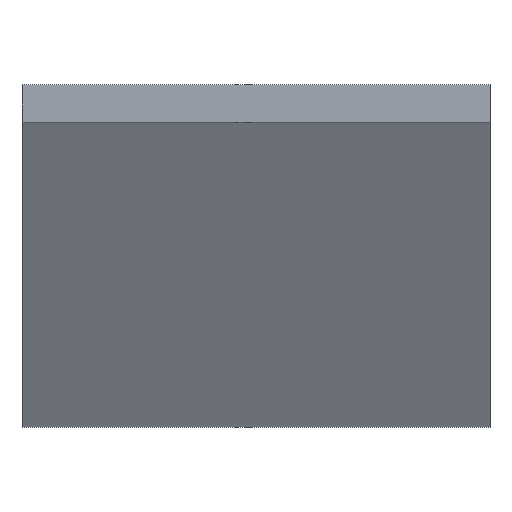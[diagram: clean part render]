
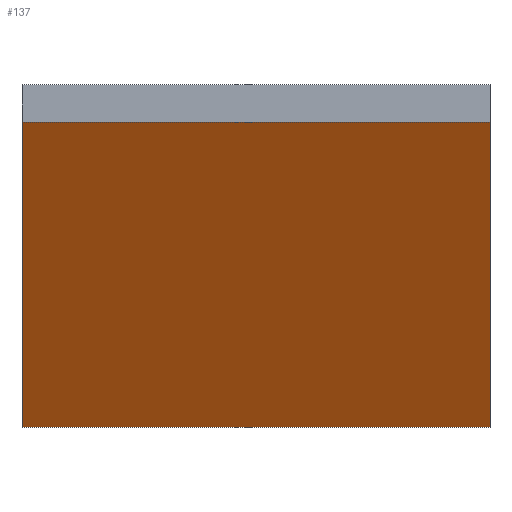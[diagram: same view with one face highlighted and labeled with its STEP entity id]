
A CAD part, front view. The second image highlights one B-rep face of the part: STEP entity #137.
In plain terms, the highlighted planar face has unit normal (0, -0.87, -0.493).
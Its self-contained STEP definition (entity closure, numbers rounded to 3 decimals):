
#32 = PLANE('',#33);
#33 = AXIS2_PLACEMENT_3D('',#34,#35,#36);
#34 = CARTESIAN_POINT('',(28.,-61.805,-165.04));
#35 = DIRECTION('',(0.,0.,1.));
#36 = DIRECTION('',(0.,-1.,0.));
#57 = VERTEX_POINT('',#58);
#58 = CARTESIAN_POINT('',(-28.,-65.305,-165.04));
#72 = PLANE('',#73);
#73 = AXIS2_PLACEMENT_3D('',#74,#75,#76);
#74 = CARTESIAN_POINT('',(-28.,-74.749,-144.627));
#75 = DIRECTION('',(-1.,0.,0.));
#76 = DIRECTION('',(0.,0.,1.));
#84 = EDGE_CURVE('',#85,#57,#87,.T.);
#85 = VERTEX_POINT('',#86);
#86 = CARTESIAN_POINT('',(28.,-65.305,-165.04));
#87 = SURFACE_CURVE('',#88,(#92,#99),.PCURVE_S1.);
#88 = LINE('',#89,#90);
#89 = CARTESIAN_POINT('',(28.,-65.305,-165.04));
#90 = VECTOR('',#91,1.);
#91 = DIRECTION('',(-1.,0.,0.));
#92 = PCURVE('',#32,#93);
#93 = DEFINITIONAL_REPRESENTATION('',(#94),#98);
#94 = LINE('',#95,#96);
#95 = CARTESIAN_POINT('',(3.5,0.));
#96 = VECTOR('',#97,1.);
#97 = DIRECTION('',(0.,-1.));
#98 = ( GEOMETRIC_REPRESENTATION_CONTEXT(2) 
PARAMETRIC_REPRESENTATION_CONTEXT() REPRESENTATION_CONTEXT('2D SPACE',''
  ) );
#99 = PCURVE('',#100,#105);
#100 = PLANE('',#101);
#101 = AXIS2_PLACEMENT_3D('',#102,#103,#104);
#102 = CARTESIAN_POINT('',(28.,-65.305,-165.04));
#103 = DIRECTION('',(0.,0.87,0.493));
#104 = DIRECTION('',(0.,-0.493,0.87)
  );
#105 = DEFINITIONAL_REPRESENTATION('',(#106),#110);
#106 = LINE('',#107,#108);
#107 = CARTESIAN_POINT('',(0.,0.));
#108 = VECTOR('',#109,1.);
#109 = DIRECTION('',(0.,-1.));
#110 = ( GEOMETRIC_REPRESENTATION_CONTEXT(2) 
PARAMETRIC_REPRESENTATION_CONTEXT() REPRESENTATION_CONTEXT('2D SPACE',''
  ) );
#126 = PLANE('',#127);
#127 = AXIS2_PLACEMENT_3D('',#128,#129,#130);
#128 = CARTESIAN_POINT('',(28.,-74.749,-144.627));
#129 = DIRECTION('',(-1.,0.,0.));
#130 = DIRECTION('',(0.,0.,1.));
#137 = ADVANCED_FACE('',(#138),#100,.F.);
#138 = FACE_BOUND('',#139,.F.);
#139 = EDGE_LOOP('',(#140,#141,#164,#192));
#140 = ORIENTED_EDGE('',*,*,#84,.T.);
#141 = ORIENTED_EDGE('',*,*,#142,.T.);
#142 = EDGE_CURVE('',#57,#143,#145,.T.);
#143 = VERTEX_POINT('',#144);
#144 = CARTESIAN_POINT('',(-28.,-86.,-128.54));
#145 = SURFACE_CURVE('',#146,(#150,#157),.PCURVE_S1.);
#146 = LINE('',#147,#148);
#147 = CARTESIAN_POINT('',(-28.,-65.305,-165.04));
#148 = VECTOR('',#149,1.);
#149 = DIRECTION('',(0.,-0.493,0.87)
  );
#150 = PCURVE('',#100,#151);
#151 = DEFINITIONAL_REPRESENTATION('',(#152),#156);
#152 = LINE('',#153,#154);
#153 = CARTESIAN_POINT('',(0.,-56.));
#154 = VECTOR('',#155,1.);
#155 = DIRECTION('',(1.,0.));
#156 = ( GEOMETRIC_REPRESENTATION_CONTEXT(2) 
PARAMETRIC_REPRESENTATION_CONTEXT() REPRESENTATION_CONTEXT('2D SPACE',''
  ) );
#157 = PCURVE('',#72,#158);
#158 = DEFINITIONAL_REPRESENTATION('',(#159),#163);
#159 = LINE('',#160,#161);
#160 = CARTESIAN_POINT('',(-20.413,9.444));
#161 = VECTOR('',#162,1.);
#162 = DIRECTION('',(0.87,-0.493));
#163 = ( GEOMETRIC_REPRESENTATION_CONTEXT(2) 
PARAMETRIC_REPRESENTATION_CONTEXT() REPRESENTATION_CONTEXT('2D SPACE',''
  ) );
#164 = ORIENTED_EDGE('',*,*,#165,.F.);
#165 = EDGE_CURVE('',#166,#143,#168,.T.);
#166 = VERTEX_POINT('',#167);
#167 = CARTESIAN_POINT('',(28.,-86.,-128.54));
#168 = SURFACE_CURVE('',#169,(#173,#180),.PCURVE_S1.);
#169 = LINE('',#170,#171);
#170 = CARTESIAN_POINT('',(28.,-86.,-128.54));
#171 = VECTOR('',#172,1.);
#172 = DIRECTION('',(-1.,0.,0.));
#173 = PCURVE('',#100,#174);
#174 = DEFINITIONAL_REPRESENTATION('',(#175),#179);
#175 = LINE('',#176,#177);
#176 = CARTESIAN_POINT('',(41.959,0.));
#177 = VECTOR('',#178,1.);
#178 = DIRECTION('',(0.,-1.));
#179 = ( GEOMETRIC_REPRESENTATION_CONTEXT(2) 
PARAMETRIC_REPRESENTATION_CONTEXT() REPRESENTATION_CONTEXT('2D SPACE',''
  ) );
#180 = PCURVE('',#181,#186);
#181 = PLANE('',#182);
#182 = AXIS2_PLACEMENT_3D('',#183,#184,#185);
#183 = CARTESIAN_POINT('',(28.,-86.,-128.54));
#184 = DIRECTION('',(0.,1.,0.));
#185 = DIRECTION('',(0.,0.,1.));
#186 = DEFINITIONAL_REPRESENTATION('',(#187),#191);
#187 = LINE('',#188,#189);
#188 = CARTESIAN_POINT('',(0.,0.));
#189 = VECTOR('',#190,1.);
#190 = DIRECTION('',(0.,-1.));
#191 = ( GEOMETRIC_REPRESENTATION_CONTEXT(2) 
PARAMETRIC_REPRESENTATION_CONTEXT() REPRESENTATION_CONTEXT('2D SPACE',''
  ) );
#192 = ORIENTED_EDGE('',*,*,#193,.F.);
#193 = EDGE_CURVE('',#85,#166,#194,.T.);
#194 = SURFACE_CURVE('',#195,(#199,#206),.PCURVE_S1.);
#195 = LINE('',#196,#197);
#196 = CARTESIAN_POINT('',(28.,-65.305,-165.04));
#197 = VECTOR('',#198,1.);
#198 = DIRECTION('',(0.,-0.493,0.87)
  );
#199 = PCURVE('',#100,#200);
#200 = DEFINITIONAL_REPRESENTATION('',(#201),#205);
#201 = LINE('',#202,#203);
#202 = CARTESIAN_POINT('',(0.,0.));
#203 = VECTOR('',#204,1.);
#204 = DIRECTION('',(1.,0.));
#205 = ( GEOMETRIC_REPRESENTATION_CONTEXT(2) 
PARAMETRIC_REPRESENTATION_CONTEXT() REPRESENTATION_CONTEXT('2D SPACE',''
  ) );
#206 = PCURVE('',#126,#207);
#207 = DEFINITIONAL_REPRESENTATION('',(#208),#212);
#208 = LINE('',#209,#210);
#209 = CARTESIAN_POINT('',(-20.413,9.444));
#210 = VECTOR('',#211,1.);
#211 = DIRECTION('',(0.87,-0.493));
#212 = ( GEOMETRIC_REPRESENTATION_CONTEXT(2) 
PARAMETRIC_REPRESENTATION_CONTEXT() REPRESENTATION_CONTEXT('2D SPACE',''
  ) );
